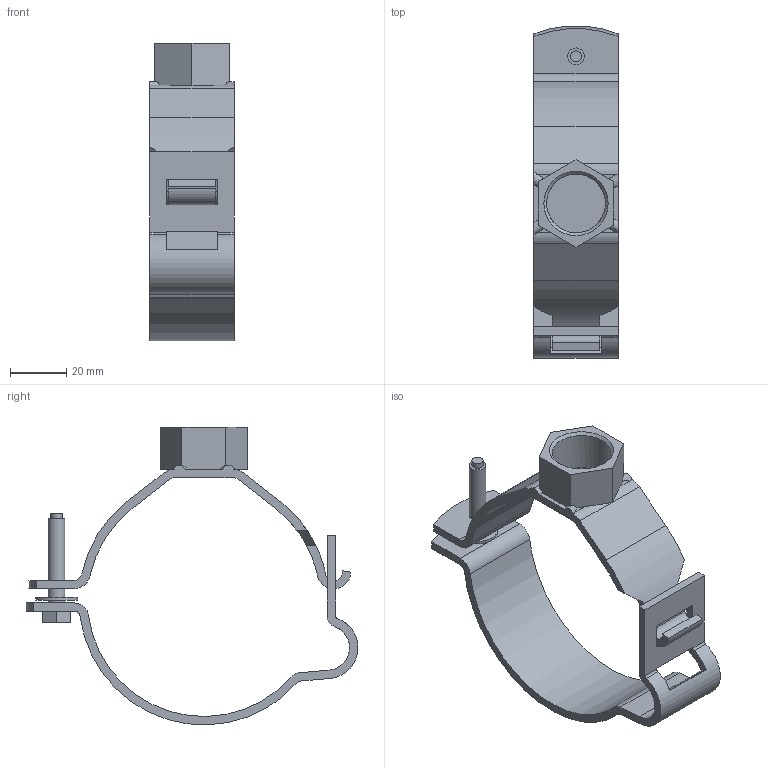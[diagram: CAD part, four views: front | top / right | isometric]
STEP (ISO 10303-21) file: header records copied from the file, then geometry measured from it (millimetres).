
FILE_DESCRIPTION(/* description */ (''),/* implementation_level */ '2;1');
FILE_NAME(/* name */ 'H:\Geberit-Teile\Export\365.841.00.2\stp\365841.stp',/* time_stamp */ '2016-03-14T12:18:31+01:00',/* author */ ('seihe2'),/* organization */ (''),/* preprocessor_version */ 'ST-DEVELOPER v15.2',/* originating_system */ 'Autodesk Inventor 2014',/* authorisation */ '');
FILE_SCHEMA (('AUTOMOTIVE_DESIGN { 1 0 10303 214 3 1 1 }'));
Length unit declared in the file: millimetre
Products named in the file (1): 365841
Bounding box: 30 x 118.38 x 106.18 mm (x, y, z)
Volume: 34400.5 mm3; surface area: 25640.7 mm2
Topology: 1 solids, 1 shells, 106 faces, 294 edges, 191 vertices
Faces by surface type: plane 66, cylinder 35, bspline 4, cone 1
Full cylindrical faces by diameter (mm): 4 x1, 6 x3, 15 x1, 20.955 x1
Entity records: 3528 total; most frequent: CARTESIAN_POINT 619, DIRECTION 592, ORIENTED_EDGE 574, EDGE_CURVE 286, AXIS2_PLACEMENT_3D 203, VERTEX_POINT 190, LINE 186, VECTOR 186
